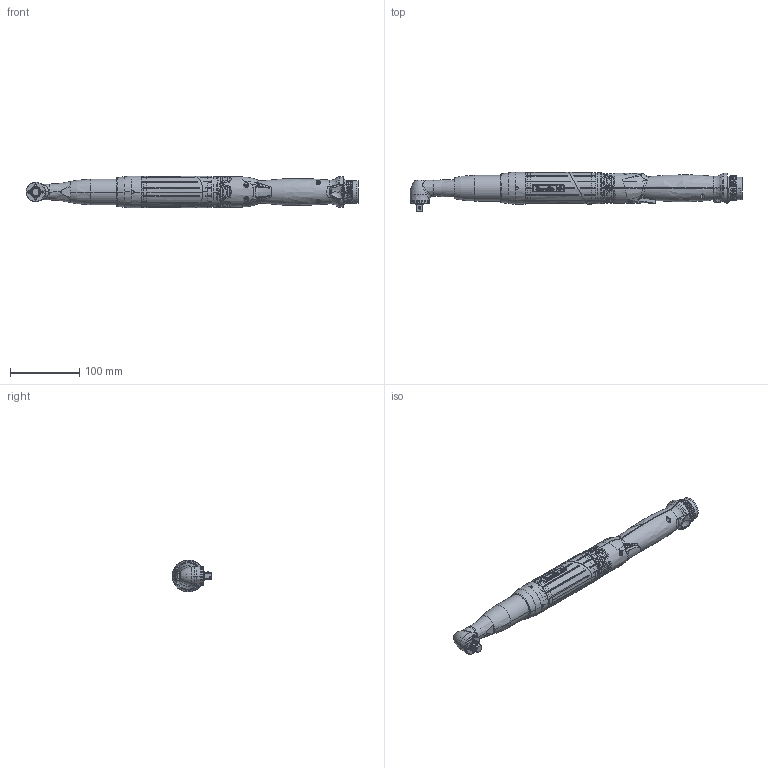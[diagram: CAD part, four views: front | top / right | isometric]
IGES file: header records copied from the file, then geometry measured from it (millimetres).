
Start section:  PTC IGES file: 6151656060_ead20-1300_sw0002.igs
Global section: file name: 6151656060_ead20-1300_sw0002.igs; native system: Pro/ENGINEER by Parametric Technology Corporation; preprocessor: 2009300; author: sdanet; organization: Unknown; date: 20100715.175427; units: millimetre
Bounding box: 480.4 x 56.94 x 46 mm (x, y, z)
Volume: 137714.6 mm3; surface area: 135271.5 mm2
Topology: 8 solids, 8 shells, 1984 faces, 5442 edges, 3534 vertices
Faces by surface type: revolution 842, bspline 700, extrusion 442
